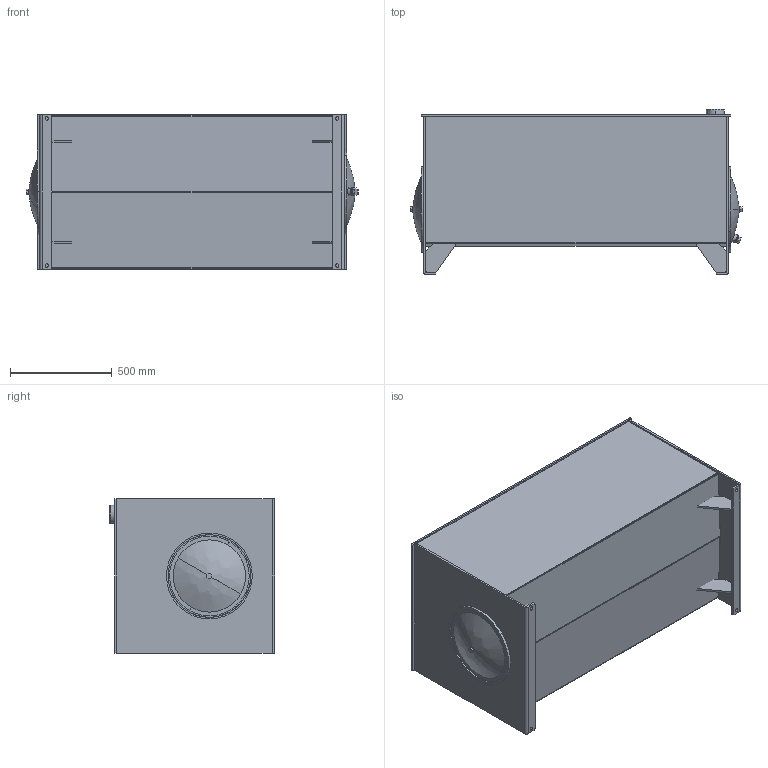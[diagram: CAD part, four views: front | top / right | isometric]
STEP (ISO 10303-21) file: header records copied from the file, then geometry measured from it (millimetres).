
FILE_DESCRIPTION (( 'STEP AP214' ), '1' );
FILE_NAME ('T1-150.STEP', '2019-06-24T15:54:11', ( '' ), ( '' ), 'SwSTEP 2.0', 'SolidWorks 2013', '' );
FILE_SCHEMA (( 'AUTOMOTIVE_DESIGN' ));
Length unit declared in the file: inch
Products named in the file (17): 0.625 - 11 HEX BOLT; CRUSH WASHER; 16.00 GASKET; FILLER RISER; T1-150-GST; T1-150-BFL; T1-150-BDY; T1-150-EB; T1-150-EA; T1-150-LD; T1-150; TL-EC-16; 16.00 END COVER; TL-ECD-16; DRAIN; 16.00 END COVER WITH DRAIN; 0.625 - 11 BAFFLE NUT
Assembly tree (23 placements, depth 3):
  T1-150
    T1-150-LD
    T1-150-EA
    T1-150-EB
    T1-150-BDY
    T1-150-BFL
    T1-150-GST  x4
    FILLER RISER
    TL-ECD-16
      16.00 GASKET
      CRUSH WASHER
      0.625 - 11 HEX BOLT
      0.625 - 11 BAFFLE NUT
      16.00 END COVER WITH DRAIN
      DRAIN
    TL-EC-16
      16.00 END COVER
      16.00 GASKET
      CRUSH WASHER
      0.625 - 11 HEX BOLT
      0.625 - 11 BAFFLE NUT
Bounding box: 1633.2 x 812.8 x 762 mm (x, y, z)
Volume: 36447313.5 mm3; surface area: 13255580.4 mm2
Topology: 22 solids, 22 shells, 294 faces, 676 edges, 434 vertices
Faces by surface type: plane 165, cylinder 109, cone 10, bspline 8, torus 2
Entity records: 8553 total; most frequent: CARTESIAN_POINT 1469, DIRECTION 1242, ORIENTED_EDGE 1076, EDGE_CURVE 538, AXIS2_PLACEMENT_3D 465, VERTEX_POINT 342, VECTOR 312, LINE 312
